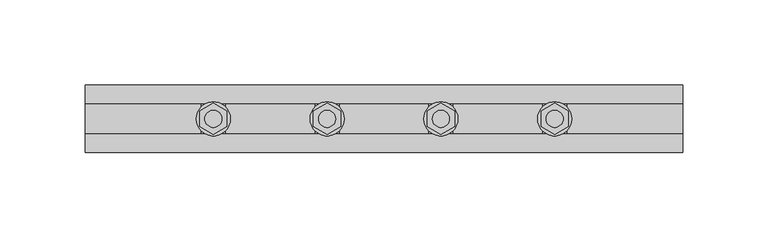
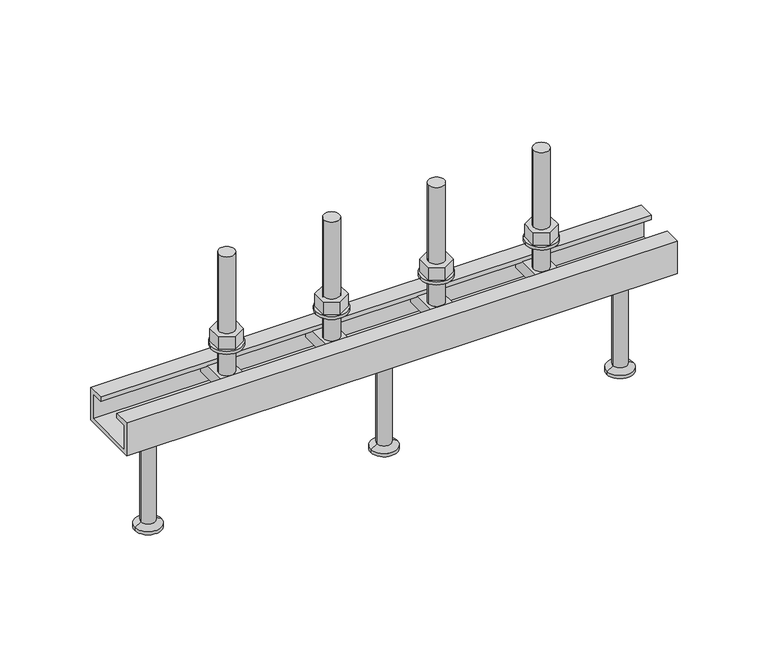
"""IFC4 building model written with IfcOpenShell, lengths in millimetres: fastener geometry, JTA-W JORDAHL® AnchorChannels : JTA-W L=350 mm."""

from ifc_helpers import new_model, si_unit, point, frame, frame_2d, origin, place, context, project, spatial, polyline, circle_curve, trimmed, segment, composite_curve, outline, extrude, source, transform, mapped, element, save
from ifc_brep_helpers import plane_surface, cylinder_surface, revolved_surface, advanced_brep


def fastener_fac80bb2(model_context):
    return source(origin(), model_context, "Body", "SolidModel", [
        extrude(outline(polyline([(208.3333333, 9.2376043), (216.3333333, 4.6188022), (216.3333333, -4.6188022), (208.3333333, -9.2376043), (200.3333333, -4.6188022), (200.3333333, 4.6188022), (208.3333333, 9.2376043)]), holes=[composite_curve([segment(trimmed(circle_curve(frame_2d((208.3333333, 0.0)), 5.0), [point((203.3333333, 0.0))], [point((213.3333333, 0.0))], True, "CARTESIAN"), True, "CONTINUOUS"), segment(trimmed(circle_curve(frame_2d((208.3333333, 0.0)), 5.0), [point((213.3333333, 0.0))], [point((203.3333333, 0.0))], True, "CARTESIAN"), True, "CONTINUOUS")], self_intersect=False)]), frame((0.0, 0.0, 17.0), z_axis=(0.0, 0.0, 1.0), x_axis=(1.0, 0.0, 0.0)), (0.0, 0.0, 1.0), 8.4),
        extrude(outline(composite_curve([segment(trimmed(circle_curve(frame_2d((208.3333333, 0.0)), 10.0), [point((198.3333333, 0.0))], [point((218.3333333, 0.0))], False, "CARTESIAN"), True, "CONTINUOUS"), segment(trimmed(circle_curve(frame_2d((208.3333333, 0.0)), 10.0), [point((218.3333333, 0.0))], [point((198.3333333, 0.0))], False, "CARTESIAN"), True, "CONTINUOUS")], self_intersect=False), holes=[composite_curve([segment(trimmed(circle_curve(frame_2d((208.3333333, 0.0)), 5.25), [point((203.0833333, 0.0))], [point((213.5833333, 0.0))], True, "CARTESIAN"), True, "CONTINUOUS"), segment(trimmed(circle_curve(frame_2d((208.3333333, 0.0)), 5.25), [point((213.5833333, 0.0))], [point((203.0833333, 0.0))], True, "CARTESIAN"), True, "CONTINUOUS")], self_intersect=False)]), frame((0.0, 0.0, 15.0), z_axis=(0.0, 0.0, 1.0), x_axis=(1.0, 0.0, 0.0)), (0.0, 0.0, 1.0), 2.0),
        extrude(outline(polyline([(141.6666667, 9.2376043), (149.6666667, 4.6188022), (149.6666667, -4.6188022), (141.6666667, -9.2376043), (133.6666667, -4.6188022), (133.6666667, 4.6188022), (141.6666667, 9.2376043)]), holes=[composite_curve([segment(trimmed(circle_curve(frame_2d((141.6666667, 0.0)), 5.0), [point((136.6666667, 0.0))], [point((146.6666667, 0.0))], True, "CARTESIAN"), True, "CONTINUOUS"), segment(trimmed(circle_curve(frame_2d((141.6666667, 0.0)), 5.0), [point((146.6666667, 0.0))], [point((136.6666667, 0.0))], True, "CARTESIAN"), True, "CONTINUOUS")], self_intersect=False)]), frame((0.0, 0.0, 17.0), z_axis=(0.0, 0.0, 1.0), x_axis=(1.0, 0.0, 0.0)), (0.0, 0.0, 1.0), 8.4),
        extrude(outline(composite_curve([segment(trimmed(circle_curve(frame_2d((141.6666667, 0.0)), 10.0), [point((131.6666667, 0.0))], [point((151.6666667, 0.0))], False, "CARTESIAN"), True, "CONTINUOUS"), segment(trimmed(circle_curve(frame_2d((141.6666667, 0.0)), 10.0), [point((151.6666667, 0.0))], [point((131.6666667, 0.0))], False, "CARTESIAN"), True, "CONTINUOUS")], self_intersect=False), holes=[composite_curve([segment(trimmed(circle_curve(frame_2d((141.6666667, 0.0)), 5.25), [point((136.4166667, 0.0))], [point((146.9166667, 0.0))], True, "CARTESIAN"), True, "CONTINUOUS"), segment(trimmed(circle_curve(frame_2d((141.6666667, 0.0)), 5.25), [point((146.9166667, 0.0))], [point((136.4166667, 0.0))], True, "CARTESIAN"), True, "CONTINUOUS")], self_intersect=False)]), frame((0.0, 0.0, 15.0), z_axis=(0.0, 0.0, 1.0), x_axis=(1.0, 0.0, 0.0)), (0.0, 0.0, 1.0), 2.0),
        advanced_brep(
        [(215.3333333, 16.25, -3.0), (215.3333333, -16.25, -3.0), (215.3333333, -16.25, -11.0), (215.3333333, 16.25, -11.0), (201.3333333, 16.25, -3.0), (201.3333333, 16.25, -11.0), (201.3333333, -16.25, -11.0), (201.3333333, -16.25, -3.0), (213.3333333, 0.0, -3.0), (203.3333333, 0.0, -3.0), (203.3333333, 0.0, 77.0), (213.3333333, 0.0, 77.0)],
        [
            (0, 1),
            (1, 2),
            (2, 3),
            (3, 0),
            (4, 5),
            (5, 6),
            (6, 7),
            (7, 4),
            (0, 4),
            (7, 1),
            (8, 9, circle_curve(frame((208.3333333, 0.0, -3.0), z_axis=(0.0, 0.0, -1.0), x_axis=(1.0, 0.0, 0.0)), 5.0)),
            (9, 8, circle_curve(frame((208.3333333, 0.0, -3.0), z_axis=(0.0, 0.0, -1.0), x_axis=(1.0, 0.0, 0.0)), 5.0)),
            (6, 2),
            (5, 3),
            (10, 11, circle_curve(frame((208.3333333, 0.0, 77.0), z_axis=(0.0, 0.0, 1.0), x_axis=(1.0, 0.0, 0.0)), 5.0)),
            (11, 10, circle_curve(frame((208.3333333, 0.0, 77.0), z_axis=(0.0, 0.0, 1.0), x_axis=(1.0, 0.0, 0.0)), 5.0)),
            (10, 9),
            (8, 11),
        ],
        [
            plane_surface(frame((215.3333333, -16.25, -3.0), z_axis=(1.0, 0.0, 0.0), x_axis=(0.0, -1.0, 0.0))),
            plane_surface(frame((201.3333333, -16.25, -3.0), z_axis=(-1.0, 0.0, 0.0), x_axis=(0.0, 1.0, 0.0))),
            plane_surface(frame((215.3333333, 16.25, -3.0), z_axis=(0.0, 0.0, 1.0), x_axis=(-1.0, 0.0, 0.0))),
            plane_surface(frame((215.3333333, -16.25, -3.0), z_axis=(0.0, -1.0, 0.0), x_axis=(-1.0, 0.0, 0.0))),
            plane_surface(frame((215.3333333, -16.25, -11.0), z_axis=(0.0, 0.0, -1.0), x_axis=(-1.0, 0.0, 0.0))),
            plane_surface(frame((215.3333333, 16.25, -11.0), z_axis=(0.0, 1.0, 0.0), x_axis=(-1.0, 0.0, 0.0))),
            plane_surface(frame((213.3333333, 0.0, 77.0), z_axis=(0.0, 0.0, 1.0), x_axis=(0.0, 1.0, 0.0))),
            cylinder_surface(frame((208.3333333, 0.0, -3.0), z_axis=(0.0, 0.0, 1.0), x_axis=(1.0, 0.0, 0.0)), 5.0),
        ],
        [
            (0, [[1, 2, 3, 4]]),
            (1, [[5, 6, 7, 8]]),
            (2, [[-1, 9, -8, 10], [11, 12]]),
            (3, [[-2, -10, -7, 13]]),
            (4, [[-3, -13, -6, 14]]),
            (5, [[-4, -14, -5, -9]]),
            (6, [[15, 16]]),
            (7, [[-15, 17, -11, 18]]),
            (7, [[-16, -18, -12, -17]]),
        ],
    ),
        advanced_brep(
        [(148.6666667, 16.25, -3.0), (148.6666667, -16.25, -3.0), (148.6666667, -16.25, -11.0), (148.6666667, 16.25, -11.0), (134.6666667, 16.25, -3.0), (134.6666667, 16.25, -11.0), (134.6666667, -16.25, -11.0), (134.6666667, -16.25, -3.0), (146.6666667, 0.0, -3.0), (136.6666667, 0.0, -3.0), (136.6666667, 0.0, 77.0), (146.6666667, 0.0, 77.0)],
        [
            (0, 1),
            (1, 2),
            (2, 3),
            (3, 0),
            (4, 5),
            (5, 6),
            (6, 7),
            (7, 4),
            (0, 4),
            (7, 1),
            (8, 9, circle_curve(frame((141.6666667, 0.0, -3.0), z_axis=(0.0, 0.0, -1.0), x_axis=(1.0, 0.0, 0.0)), 5.0)),
            (9, 8, circle_curve(frame((141.6666667, 0.0, -3.0), z_axis=(0.0, 0.0, -1.0), x_axis=(1.0, 0.0, 0.0)), 5.0)),
            (6, 2),
            (5, 3),
            (10, 11, circle_curve(frame((141.6666667, 0.0, 77.0), z_axis=(0.0, 0.0, 1.0), x_axis=(1.0, 0.0, 0.0)), 5.0)),
            (11, 10, circle_curve(frame((141.6666667, 0.0, 77.0), z_axis=(0.0, 0.0, 1.0), x_axis=(1.0, 0.0, 0.0)), 5.0)),
            (10, 9),
            (8, 11),
        ],
        [
            plane_surface(frame((148.6666667, -16.25, -3.0), z_axis=(1.0, 0.0, 0.0), x_axis=(0.0, -1.0, 0.0))),
            plane_surface(frame((134.6666667, -16.25, -3.0), z_axis=(-1.0, 0.0, 0.0), x_axis=(0.0, 1.0, 0.0))),
            plane_surface(frame((148.6666667, 16.25, -3.0), z_axis=(0.0, 0.0, 1.0), x_axis=(-1.0, 0.0, 0.0))),
            plane_surface(frame((148.6666667, -16.25, -3.0), z_axis=(0.0, -1.0, 0.0), x_axis=(-1.0, 0.0, 0.0))),
            plane_surface(frame((148.6666667, -16.25, -11.0), z_axis=(0.0, 0.0, -1.0), x_axis=(-1.0, 0.0, 0.0))),
            plane_surface(frame((148.6666667, 16.25, -11.0), z_axis=(0.0, 1.0, 0.0), x_axis=(-1.0, 0.0, 0.0))),
            plane_surface(frame((146.6666667, 0.0, 77.0), z_axis=(0.0, 0.0, 1.0), x_axis=(0.0, 1.0, 0.0))),
            cylinder_surface(frame((141.6666667, 0.0, -3.0), z_axis=(0.0, 0.0, 1.0), x_axis=(1.0, 0.0, 0.0)), 5.0),
        ],
        [
            (0, [[1, 2, 3, 4]]),
            (1, [[5, 6, 7, 8]]),
            (2, [[-1, 9, -8, 10], [11, 12]]),
            (3, [[-2, -10, -7, 13]]),
            (4, [[-3, -13, -6, 14]]),
            (5, [[-4, -14, -5, -9]]),
            (6, [[15, 16]]),
            (7, [[-15, 17, -11, 18]]),
            (7, [[-16, -18, -12, -17]]),
        ],
    ),
        advanced_brep(
        [(175.0, 0.0, -22.0), (188.5, 0.0, -22.0), (161.5, 0.0, -22.0), (166.5, 0.0, -90.0), (183.5, 0.0, -90.0), (175.0, 0.0, -90.0), (166.5, 0.0, -88.0), (183.5, 0.0, -88.0), (170.5, 0.0, -85.6905989), (179.5, 0.0, -85.6905989), (170.5, 0.0, -24.5), (179.5, 0.0, -24.5)],
        [
            (0, 1),
            (1, 2, circle_curve(frame((175.0, 0.0, -22.0), z_axis=(0.0, 0.0, 1.0), x_axis=(1.0, 0.0, 0.0)), 13.5)),
            (2, 0),
            (2, 1, circle_curve(frame((175.0, 0.0, -22.0), z_axis=(0.0, 0.0, 1.0), x_axis=(1.0, 0.0, 0.0)), 13.5)),
            (3, 4, circle_curve(frame((175.0, 0.0, -90.0), z_axis=(0.0, 0.0, -1.0), x_axis=(1.0, 0.0, 0.0)), 8.5)),
            (4, 5),
            (5, 3),
            (4, 3, circle_curve(frame((175.0, 0.0, -90.0), z_axis=(0.0, 0.0, -1.0), x_axis=(1.0, 0.0, 0.0)), 8.5)),
            (6, 7, circle_curve(frame((175.0, 0.0, -88.0), z_axis=(0.0, 0.0, -1.0), x_axis=(1.0, 0.0, 0.0)), 8.5)),
            (7, 4),
            (3, 6),
            (7, 6, circle_curve(frame((175.0, 0.0, -88.0), z_axis=(0.0, 0.0, -1.0), x_axis=(1.0, 0.0, 0.0)), 8.5)),
            (8, 9, circle_curve(frame((175.0, 0.0, -85.6905989), z_axis=(0.0, 0.0, -1.0), x_axis=(1.0, 0.0, 0.0)), 4.5)),
            (9, 7),
            (6, 8),
            (9, 8, circle_curve(frame((175.0, 0.0, -85.6905989), z_axis=(0.0, 0.0, -1.0), x_axis=(1.0, 0.0, 0.0)), 4.5)),
            (10, 11, circle_curve(frame((175.0, 0.0, -24.5), z_axis=(0.0, 0.0, -1.0), x_axis=(1.0, 0.0, 0.0)), 4.5)),
            (11, 9),
            (8, 10),
            (11, 10, circle_curve(frame((175.0, 0.0, -24.5), z_axis=(0.0, 0.0, -1.0), x_axis=(1.0, 0.0, 0.0)), 4.5)),
            (1, 11),
            (10, 2),
        ],
        [
            plane_surface(frame((175.0, 0.0, -22.0), z_axis=(0.0, 0.0, 1.0), x_axis=(1.0, 0.0, 0.0))),
            plane_surface(frame((175.0, 0.0, -90.0), z_axis=(0.0, 0.0, -1.0), x_axis=(1.0, 0.0, 0.0))),
            cylinder_surface(frame((175.0, 0.0, 2282.3150031), z_axis=(0.0, 0.0, 1.0), x_axis=(1.0, 0.0, 0.0)), 8.5),
            revolved_surface(polyline([(183.5, 0.0, -88.0), (179.5, 0.0, -85.6905989)]), (175.0, 0.0, 2282.3150031), (0.0, 0.0, 1.0)),
            cylinder_surface(frame((175.0, 0.0, 2282.3150031), z_axis=(0.0, 0.0, 1.0), x_axis=(1.0, 0.0, 0.0)), 4.5),
            revolved_surface(polyline([(179.5, 0.0, -24.5), (188.5, 0.0, -22.0)]), (175.0, 0.0, 2282.3150031), (0.0, 0.0, 1.0)),
        ],
        [
            (0, [[1, 2, 3]]),
            (0, [[-3, 4, -1]]),
            (1, [[5, 6, 7]]),
            (1, [[8, -7, -6]]),
            (2, [[9, 10, -5, 11]]),
            (2, [[12, -11, -8, -10]]),
            (3, [[13, 14, -9, 15]]),
            (3, [[16, -15, -12, -14]]),
            (4, [[17, 18, -13, 19]]),
            (4, [[20, -19, -16, -18]]),
            (5, [[-2, 21, -17, 22]]),
            (5, [[-4, -22, -20, -21]]),
        ],
    ),
        extrude(outline(polyline([(275.0, 9.2376043), (283.0, 4.6188022), (283.0, -4.6188022), (275.0, -9.2376043), (267.0, -4.6188022), (267.0, 4.6188022), (275.0, 9.2376043)]), holes=[composite_curve([segment(trimmed(circle_curve(frame_2d((275.0, 0.0)), 5.0), [point((270.0, 0.0))], [point((280.0, 0.0))], True, "CARTESIAN"), True, "CONTINUOUS"), segment(trimmed(circle_curve(frame_2d((275.0, 0.0)), 5.0), [point((280.0, 0.0))], [point((270.0, 0.0))], True, "CARTESIAN"), True, "CONTINUOUS")], self_intersect=False)]), frame((0.0, 0.0, 17.0), z_axis=(0.0, 0.0, 1.0), x_axis=(1.0, 0.0, 0.0)), (0.0, 0.0, 1.0), 8.4),
        extrude(outline(composite_curve([segment(trimmed(circle_curve(frame_2d((275.0, 0.0)), 10.0), [point((265.0, 0.0))], [point((285.0, 0.0))], False, "CARTESIAN"), True, "CONTINUOUS"), segment(trimmed(circle_curve(frame_2d((275.0, 0.0)), 10.0), [point((285.0, 0.0))], [point((265.0, 0.0))], False, "CARTESIAN"), True, "CONTINUOUS")], self_intersect=False), holes=[composite_curve([segment(trimmed(circle_curve(frame_2d((275.0, 0.0)), 5.25), [point((269.75, 0.0))], [point((280.25, 0.0))], True, "CARTESIAN"), True, "CONTINUOUS"), segment(trimmed(circle_curve(frame_2d((275.0, 0.0)), 5.25), [point((280.25, 0.0))], [point((269.75, 0.0))], True, "CARTESIAN"), True, "CONTINUOUS")], self_intersect=False)]), frame((0.0, 0.0, 15.0), z_axis=(0.0, 0.0, 1.0), x_axis=(1.0, 0.0, 0.0)), (0.0, 0.0, 1.0), 2.0),
        extrude(outline(polyline([(75.0, 9.2376043), (83.0, 4.6188022), (83.0, -4.6188022), (75.0, -9.2376043), (67.0, -4.6188022), (67.0, 4.6188022), (75.0, 9.2376043)]), holes=[composite_curve([segment(trimmed(circle_curve(frame_2d((75.0, 0.0)), 5.0), [point((70.0, 0.0))], [point((80.0, 0.0))], True, "CARTESIAN"), True, "CONTINUOUS"), segment(trimmed(circle_curve(frame_2d((75.0, 0.0)), 5.0), [point((80.0, 0.0))], [point((70.0, 0.0))], True, "CARTESIAN"), True, "CONTINUOUS")], self_intersect=False)]), frame((0.0, 0.0, 17.0), z_axis=(0.0, 0.0, 1.0), x_axis=(1.0, 0.0, 0.0)), (0.0, 0.0, 1.0), 8.4),
        extrude(outline(composite_curve([segment(trimmed(circle_curve(frame_2d((75.0, 0.0)), 10.0), [point((65.0, 0.0))], [point((85.0, 0.0))], False, "CARTESIAN"), True, "CONTINUOUS"), segment(trimmed(circle_curve(frame_2d((75.0, 0.0)), 10.0), [point((85.0, 0.0))], [point((65.0, 0.0))], False, "CARTESIAN"), True, "CONTINUOUS")], self_intersect=False), holes=[composite_curve([segment(trimmed(circle_curve(frame_2d((75.0, 0.0)), 5.25), [point((69.75, 0.0))], [point((80.25, 0.0))], True, "CARTESIAN"), True, "CONTINUOUS"), segment(trimmed(circle_curve(frame_2d((75.0, 0.0)), 5.25), [point((80.25, 0.0))], [point((69.75, 0.0))], True, "CARTESIAN"), True, "CONTINUOUS")], self_intersect=False)]), frame((0.0, 0.0, 15.0), z_axis=(0.0, 0.0, 1.0), x_axis=(1.0, 0.0, 0.0)), (0.0, 0.0, 1.0), 2.0),
        advanced_brep(
        [(282.0, 16.25, -3.0), (282.0, -16.25, -3.0), (282.0, -16.25, -11.0), (282.0, 16.25, -11.0), (268.0, 16.25, -3.0), (268.0, 16.25, -11.0), (268.0, -16.25, -11.0), (268.0, -16.25, -3.0), (280.0, 0.0, -3.0), (270.0, 0.0, -3.0), (270.0, 0.0, 77.0), (280.0, 0.0, 77.0)],
        [
            (0, 1),
            (1, 2),
            (2, 3),
            (3, 0),
            (4, 5),
            (5, 6),
            (6, 7),
            (7, 4),
            (0, 4),
            (7, 1),
            (8, 9, circle_curve(frame((275.0, 0.0, -3.0), z_axis=(0.0, 0.0, -1.0), x_axis=(1.0, 0.0, 0.0)), 5.0)),
            (9, 8, circle_curve(frame((275.0, 0.0, -3.0), z_axis=(0.0, 0.0, -1.0), x_axis=(1.0, 0.0, 0.0)), 5.0)),
            (6, 2),
            (5, 3),
            (10, 11, circle_curve(frame((275.0, 0.0, 77.0), z_axis=(0.0, 0.0, 1.0), x_axis=(1.0, 0.0, 0.0)), 5.0)),
            (11, 10, circle_curve(frame((275.0, 0.0, 77.0), z_axis=(0.0, 0.0, 1.0), x_axis=(1.0, 0.0, 0.0)), 5.0)),
            (10, 9),
            (8, 11),
        ],
        [
            plane_surface(frame((282.0, -16.25, -3.0), z_axis=(1.0, 0.0, 0.0), x_axis=(0.0, -1.0, 0.0))),
            plane_surface(frame((268.0, -16.25, -3.0), z_axis=(-1.0, 0.0, 0.0), x_axis=(0.0, 1.0, 0.0))),
            plane_surface(frame((282.0, 16.25, -3.0), z_axis=(0.0, 0.0, 1.0), x_axis=(-1.0, 0.0, 0.0))),
            plane_surface(frame((282.0, -16.25, -3.0), z_axis=(0.0, -1.0, 0.0), x_axis=(-1.0, 0.0, 0.0))),
            plane_surface(frame((282.0, -16.25, -11.0), z_axis=(0.0, 0.0, -1.0), x_axis=(-1.0, 0.0, 0.0))),
            plane_surface(frame((282.0, 16.25, -11.0), z_axis=(0.0, 1.0, 0.0), x_axis=(-1.0, 0.0, 0.0))),
            plane_surface(frame((280.0, 0.0, 77.0), z_axis=(0.0, 0.0, 1.0), x_axis=(0.0, 1.0, 0.0))),
            cylinder_surface(frame((275.0, 0.0, -3.0), z_axis=(0.0, 0.0, 1.0), x_axis=(1.0, 0.0, 0.0)), 5.0),
        ],
        [
            (0, [[1, 2, 3, 4]]),
            (1, [[5, 6, 7, 8]]),
            (2, [[-1, 9, -8, 10], [11, 12]]),
            (3, [[-2, -10, -7, 13]]),
            (4, [[-3, -13, -6, 14]]),
            (5, [[-4, -14, -5, -9]]),
            (6, [[15, 16]]),
            (7, [[-15, 17, -11, 18]]),
            (7, [[-16, -18, -12, -17]]),
        ],
    ),
        advanced_brep(
        [(82.0, 16.25, -3.0), (82.0, -16.25, -3.0), (82.0, -16.25, -11.0), (82.0, 16.25, -11.0), (68.0, 16.25, -3.0), (68.0, 16.25, -11.0), (68.0, -16.25, -11.0), (68.0, -16.25, -3.0), (80.0, 0.0, -3.0), (70.0, 0.0, -3.0), (70.0, 0.0, 77.0), (80.0, 0.0, 77.0)],
        [
            (0, 1),
            (1, 2),
            (2, 3),
            (3, 0),
            (4, 5),
            (5, 6),
            (6, 7),
            (7, 4),
            (0, 4),
            (7, 1),
            (8, 9, circle_curve(frame((75.0, 0.0, -3.0), z_axis=(0.0, 0.0, -1.0), x_axis=(1.0, 0.0, 0.0)), 5.0)),
            (9, 8, circle_curve(frame((75.0, 0.0, -3.0), z_axis=(0.0, 0.0, -1.0), x_axis=(1.0, 0.0, 0.0)), 5.0)),
            (6, 2),
            (5, 3),
            (10, 11, circle_curve(frame((75.0, 0.0, 77.0), z_axis=(0.0, 0.0, 1.0), x_axis=(1.0, 0.0, 0.0)), 5.0)),
            (11, 10, circle_curve(frame((75.0, 0.0, 77.0), z_axis=(0.0, 0.0, 1.0), x_axis=(1.0, 0.0, 0.0)), 5.0)),
            (10, 9),
            (8, 11),
        ],
        [
            plane_surface(frame((82.0, -16.25, -3.0), z_axis=(1.0, 0.0, 0.0), x_axis=(0.0, -1.0, 0.0))),
            plane_surface(frame((68.0, -16.25, -3.0), z_axis=(-1.0, 0.0, 0.0), x_axis=(0.0, 1.0, 0.0))),
            plane_surface(frame((82.0, 16.25, -3.0), z_axis=(0.0, 0.0, 1.0), x_axis=(-1.0, 0.0, 0.0))),
            plane_surface(frame((82.0, -16.25, -3.0), z_axis=(0.0, -1.0, 0.0), x_axis=(-1.0, 0.0, 0.0))),
            plane_surface(frame((82.0, -16.25, -11.0), z_axis=(0.0, 0.0, -1.0), x_axis=(-1.0, 0.0, 0.0))),
            plane_surface(frame((82.0, 16.25, -11.0), z_axis=(0.0, 1.0, 0.0), x_axis=(-1.0, 0.0, 0.0))),
            plane_surface(frame((80.0, 0.0, 77.0), z_axis=(0.0, 0.0, 1.0), x_axis=(0.0, 1.0, 0.0))),
            cylinder_surface(frame((75.0, 0.0, -3.0), z_axis=(0.0, 0.0, 1.0), x_axis=(1.0, 0.0, 0.0)), 5.0),
        ],
        [
            (0, [[1, 2, 3, 4]]),
            (1, [[5, 6, 7, 8]]),
            (2, [[-1, 9, -8, 10], [11, 12]]),
            (3, [[-2, -10, -7, 13]]),
            (4, [[-3, -13, -6, 14]]),
            (5, [[-4, -14, -5, -9]]),
            (6, [[15, 16]]),
            (7, [[-15, 17, -11, 18]]),
            (7, [[-16, -18, -12, -17]]),
        ],
    ),
        advanced_brep(
        [(325.0, 0.0, -22.0), (338.5, 0.0, -22.0), (311.5, 0.0, -22.0), (316.5, 0.0, -90.0), (333.5, 0.0, -90.0), (325.0, 0.0, -90.0), (316.5, 0.0, -88.0), (333.5, 0.0, -88.0), (320.5, 0.0, -85.6905989), (329.5, 0.0, -85.6905989), (320.5, 0.0, -24.5), (329.5, 0.0, -24.5)],
        [
            (0, 1),
            (1, 2, circle_curve(frame((325.0, 0.0, -22.0), z_axis=(0.0, 0.0, 1.0), x_axis=(1.0, 0.0, 0.0)), 13.5)),
            (2, 0),
            (2, 1, circle_curve(frame((325.0, 0.0, -22.0), z_axis=(0.0, 0.0, 1.0), x_axis=(1.0, 0.0, 0.0)), 13.5)),
            (3, 4, circle_curve(frame((325.0, 0.0, -90.0), z_axis=(0.0, 0.0, -1.0), x_axis=(1.0, 0.0, 0.0)), 8.5)),
            (4, 5),
            (5, 3),
            (4, 3, circle_curve(frame((325.0, 0.0, -90.0), z_axis=(0.0, 0.0, -1.0), x_axis=(1.0, 0.0, 0.0)), 8.5)),
            (6, 7, circle_curve(frame((325.0, 0.0, -88.0), z_axis=(0.0, 0.0, -1.0), x_axis=(1.0, 0.0, 0.0)), 8.5)),
            (7, 4),
            (3, 6),
            (7, 6, circle_curve(frame((325.0, 0.0, -88.0), z_axis=(0.0, 0.0, -1.0), x_axis=(1.0, 0.0, 0.0)), 8.5)),
            (8, 9, circle_curve(frame((325.0, 0.0, -85.6905989), z_axis=(0.0, 0.0, -1.0), x_axis=(1.0, 0.0, 0.0)), 4.5)),
            (9, 7),
            (6, 8),
            (9, 8, circle_curve(frame((325.0, 0.0, -85.6905989), z_axis=(0.0, 0.0, -1.0), x_axis=(1.0, 0.0, 0.0)), 4.5)),
            (10, 11, circle_curve(frame((325.0, 0.0, -24.5), z_axis=(0.0, 0.0, -1.0), x_axis=(1.0, 0.0, 0.0)), 4.5)),
            (11, 9),
            (8, 10),
            (11, 10, circle_curve(frame((325.0, 0.0, -24.5), z_axis=(0.0, 0.0, -1.0), x_axis=(1.0, 0.0, 0.0)), 4.5)),
            (1, 11),
            (10, 2),
        ],
        [
            plane_surface(frame((325.0, 0.0, -22.0), z_axis=(0.0, 0.0, 1.0), x_axis=(1.0, 0.0, 0.0))),
            plane_surface(frame((325.0, 0.0, -90.0), z_axis=(0.0, 0.0, -1.0), x_axis=(1.0, 0.0, 0.0))),
            cylinder_surface(frame((325.0, 0.0, 2282.3150031), z_axis=(0.0, 0.0, 1.0), x_axis=(1.0, 0.0, 0.0)), 8.5),
            revolved_surface(polyline([(333.5, 0.0, -88.0), (329.5, 0.0, -85.6905989)]), (325.0, 0.0, 2282.3150031), (0.0, 0.0, 1.0)),
            cylinder_surface(frame((325.0, 0.0, 2282.3150031), z_axis=(0.0, 0.0, 1.0), x_axis=(1.0, 0.0, 0.0)), 4.5),
            revolved_surface(polyline([(329.5, 0.0, -24.5), (338.5, 0.0, -22.0)]), (325.0, 0.0, 2282.3150031), (0.0, 0.0, 1.0)),
        ],
        [
            (0, [[1, 2, 3]]),
            (0, [[-3, 4, -1]]),
            (1, [[5, 6, 7]]),
            (1, [[8, -7, -6]]),
            (2, [[9, 10, -5, 11]]),
            (2, [[12, -11, -8, -10]]),
            (3, [[13, 14, -9, 15]]),
            (3, [[16, -15, -12, -14]]),
            (4, [[17, 18, -13, 19]]),
            (4, [[20, -19, -16, -18]]),
            (5, [[-2, 21, -17, 22]]),
            (5, [[-4, -22, -20, -21]]),
        ],
    ),
        advanced_brep(
        [(25.0, 0.0, -22.0), (38.5, 0.0, -22.0), (11.5, 0.0, -22.0), (16.5, 0.0, -90.0), (33.5, 0.0, -90.0), (25.0, 0.0, -90.0), (16.5, 0.0, -88.0), (33.5, 0.0, -88.0), (20.5, 0.0, -85.6905989), (29.5, 0.0, -85.6905989), (20.5, 0.0, -24.5), (29.5, 0.0, -24.5)],
        [
            (0, 1),
            (1, 2, circle_curve(frame((25.0, 0.0, -22.0), z_axis=(0.0, 0.0, 1.0), x_axis=(1.0, 0.0, 0.0)), 13.5)),
            (2, 0),
            (2, 1, circle_curve(frame((25.0, 0.0, -22.0), z_axis=(0.0, 0.0, 1.0), x_axis=(1.0, 0.0, 0.0)), 13.5)),
            (3, 4, circle_curve(frame((25.0, 0.0, -90.0), z_axis=(0.0, 0.0, -1.0), x_axis=(1.0, 0.0, 0.0)), 8.5)),
            (4, 5),
            (5, 3),
            (4, 3, circle_curve(frame((25.0, 0.0, -90.0), z_axis=(0.0, 0.0, -1.0), x_axis=(1.0, 0.0, 0.0)), 8.5)),
            (6, 7, circle_curve(frame((25.0, 0.0, -88.0), z_axis=(0.0, 0.0, -1.0), x_axis=(1.0, 0.0, 0.0)), 8.5)),
            (7, 4),
            (3, 6),
            (7, 6, circle_curve(frame((25.0, 0.0, -88.0), z_axis=(0.0, 0.0, -1.0), x_axis=(1.0, 0.0, 0.0)), 8.5)),
            (8, 9, circle_curve(frame((25.0, 0.0, -85.6905989), z_axis=(0.0, 0.0, -1.0), x_axis=(1.0, 0.0, 0.0)), 4.5)),
            (9, 7),
            (6, 8),
            (9, 8, circle_curve(frame((25.0, 0.0, -85.6905989), z_axis=(0.0, 0.0, -1.0), x_axis=(1.0, 0.0, 0.0)), 4.5)),
            (10, 11, circle_curve(frame((25.0, 0.0, -24.5), z_axis=(0.0, 0.0, -1.0), x_axis=(1.0, 0.0, 0.0)), 4.5)),
            (11, 9),
            (8, 10),
            (11, 10, circle_curve(frame((25.0, 0.0, -24.5), z_axis=(0.0, 0.0, -1.0), x_axis=(1.0, 0.0, 0.0)), 4.5)),
            (1, 11),
            (10, 2),
        ],
        [
            plane_surface(frame((25.0, 0.0, -22.0), z_axis=(0.0, 0.0, 1.0), x_axis=(1.0, 0.0, 0.0))),
            plane_surface(frame((25.0, 0.0, -90.0), z_axis=(0.0, 0.0, -1.0), x_axis=(1.0, 0.0, 0.0))),
            cylinder_surface(frame((25.0, 0.0, 2282.3150031), z_axis=(0.0, 0.0, 1.0), x_axis=(1.0, 0.0, 0.0)), 8.5),
            revolved_surface(polyline([(33.5, 0.0, -88.0), (29.5, 0.0, -85.6905989)]), (25.0, 0.0, 2282.3150031), (0.0, 0.0, 1.0)),
            cylinder_surface(frame((25.0, 0.0, 2282.3150031), z_axis=(0.0, 0.0, 1.0), x_axis=(1.0, 0.0, 0.0)), 4.5),
            revolved_surface(polyline([(29.5, 0.0, -24.5), (38.5, 0.0, -22.0)]), (25.0, 0.0, 2282.3150031), (0.0, 0.0, 1.0)),
        ],
        [
            (0, [[1, 2, 3]]),
            (0, [[-3, 4, -1]]),
            (1, [[5, 6, 7]]),
            (1, [[8, -7, -6]]),
            (2, [[9, 10, -5, 11]]),
            (2, [[12, -11, -8, -10]]),
            (3, [[13, 14, -9, 15]]),
            (3, [[16, -15, -12, -14]]),
            (4, [[17, 18, -13, 19]]),
            (4, [[20, -19, -16, -18]]),
            (5, [[-2, 21, -17, 22]]),
            (5, [[-4, -22, -20, -21]]),
        ],
    ),
        extrude(outline(polyline([(19.75, 0.0), (19.75, -22.0), (-19.75, -22.0), (-19.75, 0.0), (-9.0, 0.0), (-9.0, -3.0), (-17.25, -3.0), (-17.25, -19.5), (17.25, -19.5), (17.25, -3.0), (9.0, -3.0), (9.0, 0.0), (19.75, 0.0)])), frame((0.0, 0.0, 0.0), z_axis=(1.0, 0.0, 0.0), x_axis=(0.0, 1.0, 0.0)), (0.0, 0.0, 1.0), 350.0),
    ])


if __name__ == "__main__":
    model = new_model("IFC4")
    model_context = context("Model", 3, world=origin())
    ifc_project = project(units=[si_unit("LENGTHUNIT", "METRE", prefix="MILLI")], contexts=[model_context])
    site = spatial("IfcSite", under=ifc_project)
    building = spatial("IfcBuilding", under=site)
    placement = place(None, origin())
    fastener_shape = fastener_fac80bb2(model_context)
    element("IfcFastener", 1, ObjectType="JTA-W JORDAHL® AnchorChannels : JTA-W L=350 mm", at=placement, inside=building, context=model_context, shape_type="MappedRepresentation", body=[
        mapped(fastener_shape, transform((0.0, 0.0, 0.0), x_axis=(1.0, 0.0, 0.0), y_axis=(0.0, 1.0, 0.0), z_axis=(0.0, 0.0, 1.0))),
    ])
    save(model, "model.ifc")
